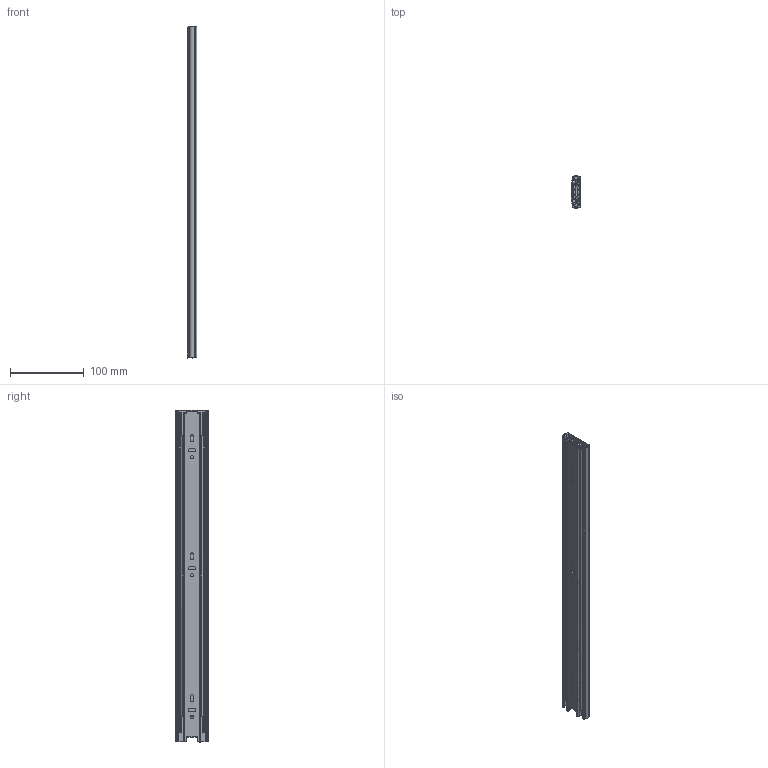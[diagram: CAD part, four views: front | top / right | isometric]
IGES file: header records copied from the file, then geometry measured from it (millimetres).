
Global section: file name: DR_L4-450; native system: Autodesk Inventor 2015; preprocessor: unknown; author: user; date: 20171010.170514; units: millimetre
Bounding box: 12.7 x 44.65 x 450 mm (x, y, z)
Volume: 130202.2 mm3; surface area: 184916.8 mm2
Topology: 7 solids, 7 shells, 284 faces, 812 edges, 542 vertices
Faces by surface type: bspline 284
